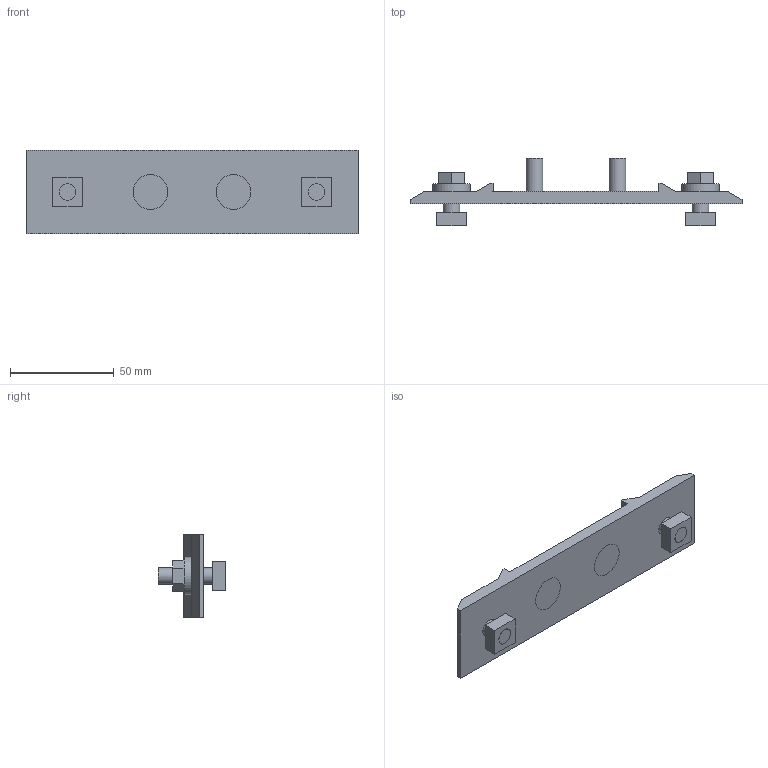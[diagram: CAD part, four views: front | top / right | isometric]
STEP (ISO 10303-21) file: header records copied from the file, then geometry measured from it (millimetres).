
FILE_DESCRIPTION((''),'2;1');
FILE_NAME('C:\Documents and Settings\古川典政\My Documents\Inventor\HP用\MasterData\BRACKET\M8\ABJF-8040-8.stp','2008-07-31T10:50:37',(''),(''),'Autodesk Inventor 2008','Autodesk Inventor 2008','');
FILE_SCHEMA(('CONFIG_CONTROL_DESIGN'));
Length unit declared in the file: millimetre
Products named in the file (8): ABJF-8040-8; ABJF-8040-81; ABJF-8040-82; ABJF-8040-83; ABJF-8040-84; ABJF-8040-85; ABJF-8040-86; ABJF-8040-87
Assembly tree (7 placements, depth 2):
  ABJF-8040-8
    ABJF-8040-81
    ABJF-8040-82
    ABJF-8040-83
    ABJF-8040-84
    ABJF-8040-85
    ABJF-8040-86
    ABJF-8040-87
Bounding box: 160 x 32.5 x 40 mm (x, y, z)
Volume: 46465.2 mm3; surface area: 22132.6 mm2
Topology: 7 solids, 7 shells, 72 faces, 160 edges, 108 vertices
Faces by surface type: plane 54, cylinder 10, bspline 5, cone 3
Full cylindrical faces by diameter (mm): 8 x4, 8.4 x2, 9 x2, 18 x2
Entity records: 2132 total; most frequent: CARTESIAN_POINT 406, DIRECTION 330, ORIENTED_EDGE 268, EDGE_CURVE 134, AXIS2_PLACEMENT_3D 114, EDGE_LOOP 108, VECTOR 102, LINE 102
